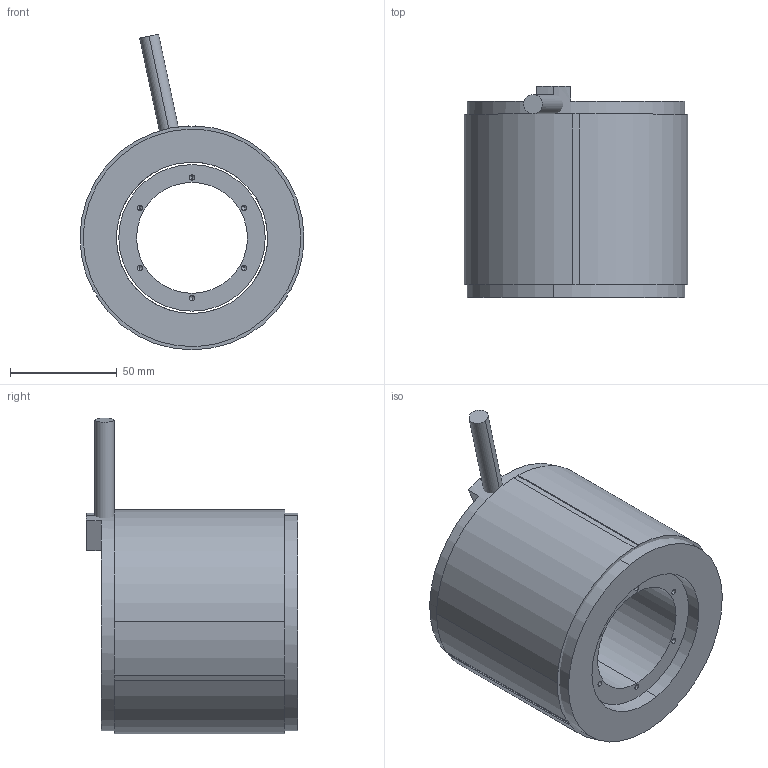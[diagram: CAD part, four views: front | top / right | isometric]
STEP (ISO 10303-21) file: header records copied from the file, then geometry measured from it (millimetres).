
FILE_DESCRIPTION (( 'STEP AP203' ), '1' );
FILE_NAME ('TMXSL105-92 KIT 3D.STEP', '2021-06-21T03:16:13', ( '' ), ( '' ), 'SwSTEP 2.0', 'SolidWorks 2021', '' );
FILE_SCHEMA (( 'CONFIG_CONTROL_DESIGN' ));
Length unit declared in the file: millimetre
Products named in the file (1): TMXSL105-92 KIT 3D
Bounding box: 104.99 x 99 x 148 mm (x, y, z)
Volume: 628611.4 mm3; surface area: 151185.8 mm2
Topology: 4 solids, 4 shells, 212 faces, 531 edges, 314 vertices
Faces by surface type: plane 118, cylinder 70, cone 24
Entity records: 6165 total; most frequent: DIRECTION 1092, CARTESIAN_POINT 1034, ORIENTED_EDGE 1014, EDGE_CURVE 507, AXIS2_PLACEMENT_3D 372, LINE 348, VECTOR 348, VERTEX_POINT 314
